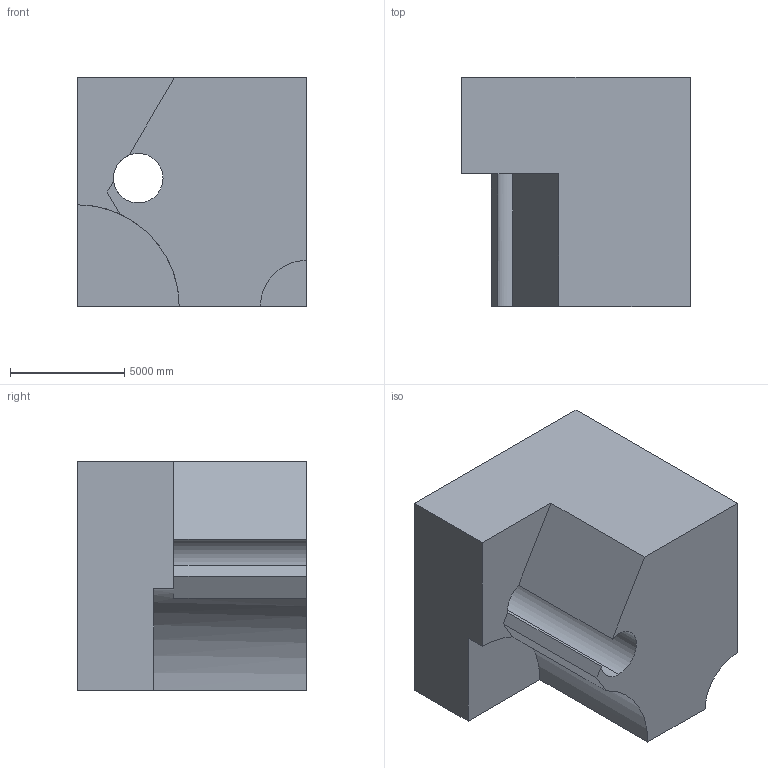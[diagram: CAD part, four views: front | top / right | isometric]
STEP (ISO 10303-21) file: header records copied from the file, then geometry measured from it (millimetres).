
FILE_DESCRIPTION (( 'STEP AP203' ), '1' );
FILE_NAME ('322.STEP', '2022-07-28T14:20:13', ( 'user' ), ( '' ), 'SwSTEP 2.0', 'SolidWorks 2021', '' );
FILE_SCHEMA (( 'CONFIG_CONTROL_DESIGN' ));
Length unit declared in the file: centimetre
Products named in the file (1): 322
Bounding box: 10000 x 10000 x 10000 mm (x, y, z)
Volume: 757846504596.3 mm3; surface area: 599823379 mm2
Topology: 1 solids, 1 shells, 16 faces, 45 edges, 30 vertices
Faces by surface type: plane 12, cylinder 4
Entity records: 601 total; most frequent: CARTESIAN_POINT 92, ORIENTED_EDGE 90, DIRECTION 90, EDGE_CURVE 45, LINE 34, VECTOR 34, VERTEX_POINT 30, AXIS2_PLACEMENT_3D 28
